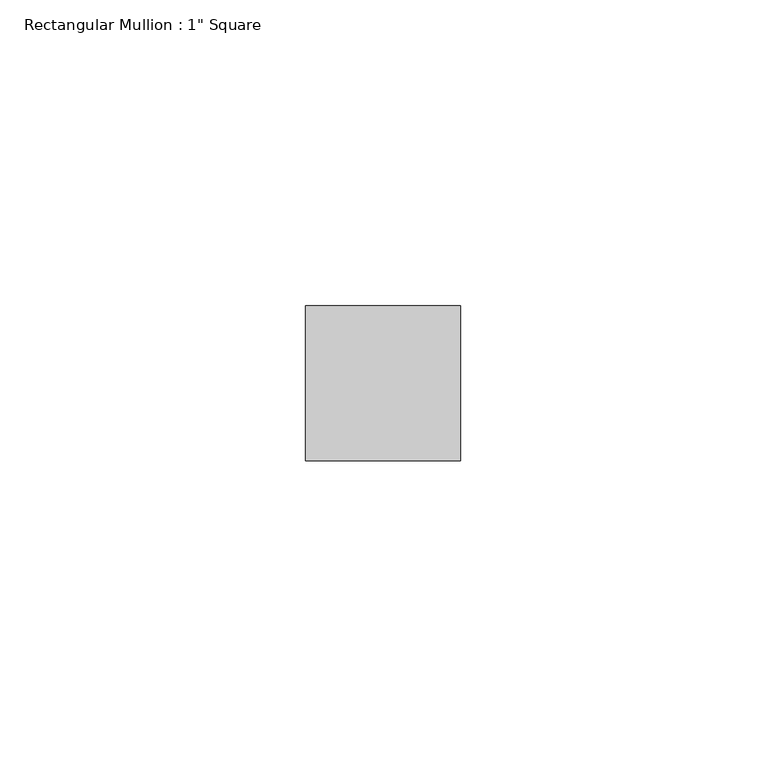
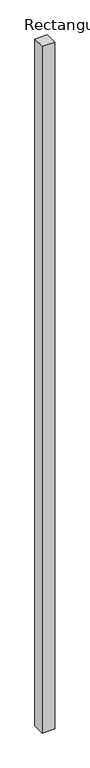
"""IFC4 building model written with IfcOpenShell, lengths in millimetres: member geometry."""

from ifc_helpers import new_model, si_unit, frame, origin, place, context, project, spatial, polyline, outline, extrude, source, transform, mapped, element, save


def member_9aefb50d(model_context):
    return source(origin(), model_context, "Body", "SweptSolid", [
        extrude(outline(polyline([(12.7, 12.7), (12.7, -12.7), (-12.7, -12.7), (-12.7, 12.7), (12.7, 12.7)])), frame((0.0, 0.0, -1465.9744436), z_axis=(0.0, 0.0, 1.0), x_axis=(1.0, 0.0, 0.0)), (0.0, 0.0, 1.0), 1465.9744436),
    ])


if __name__ == "__main__":
    model = new_model("IFC4")
    model_context = context("Model", 3, world=origin())
    ifc_project = project(units=[si_unit("LENGTHUNIT", "METRE", prefix="MILLI")], contexts=[model_context])
    site = spatial("IfcSite", under=ifc_project)
    building = spatial("IfcBuilding", under=site)
    placement = place(None, origin())
    member_shape = member_9aefb50d(model_context)
    element("IfcMember", 1, ObjectType="Rectangular Mullion : 1\" Square", at=placement, inside=building, context=model_context, shape_type="MappedRepresentation", body=[
        mapped(member_shape, transform((0.0, 0.0, 0.0), x_axis=(1.0, 0.0, 0.0), y_axis=(0.0, 1.0, 0.0), z_axis=(0.0, 0.0, 1.0))),
    ])
    save(model, "model.ifc")
